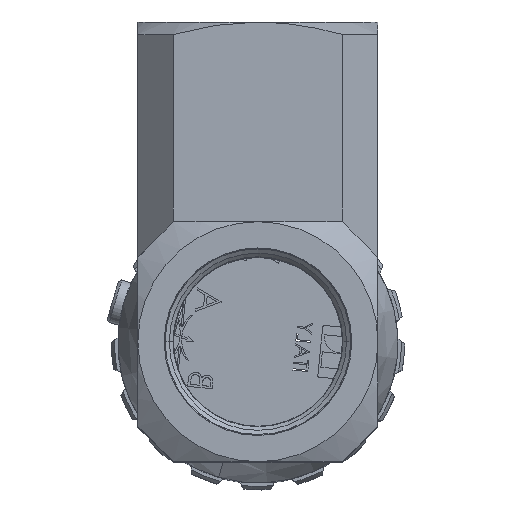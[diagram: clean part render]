
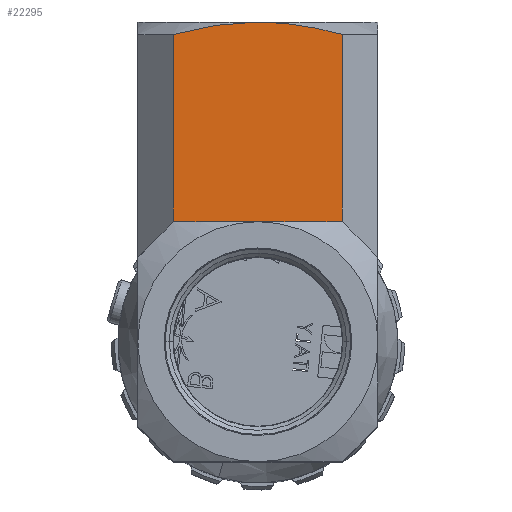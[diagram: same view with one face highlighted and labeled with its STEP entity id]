
A CAD part, top view. The second image highlights one B-rep face of the part: STEP entity #22295.
In plain terms, the highlighted planar face has unit normal (0, 0, 1).
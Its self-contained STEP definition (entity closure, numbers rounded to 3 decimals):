
#98 = EDGE_CURVE ( 'NONE', #4558, #22527, #21492, .T. ) ;
#587 = CARTESIAN_POINT ( 'NONE',  ( 6.403, 35.363, 5. ) ) ;
#1578 = CARTESIAN_POINT ( 'NONE',  ( 9.5, 36., 5. ) ) ;
#1834 = CARTESIAN_POINT ( 'NONE',  ( 9.5, 34.598, 5. ) ) ;
#2128 = VECTOR ( 'NONE', #4019, 1000. ) ;
#2434 = EDGE_LOOP ( 'NONE', ( #3364, #8077, #29382, #3970, #3834 ) ) ;
#3106 = CARTESIAN_POINT ( 'NONE',  ( 9.5, 34.598, 5. ) ) ;
#3364 = ORIENTED_EDGE ( 'NONE', *, *, #29520, .F. ) ;
#3393 = PLANE ( 'NONE',  #10958 ) ;
#3834 = ORIENTED_EDGE ( 'NONE', *, *, #8665, .F. ) ;
#3970 = ORIENTED_EDGE ( 'NONE', *, *, #98, .T. ) ;
#4019 = DIRECTION ( 'NONE',  ( 0., 1., 0. ) ) ;
#4339 = CARTESIAN_POINT ( 'NONE',  ( -13.5, 13.5, 5. ) ) ;
#4558 = VERTEX_POINT ( 'NONE', #8569 ) ;
#5424 = VERTEX_POINT ( 'NONE', #17155 ) ;
#6836 = VECTOR ( 'NONE', #29625, 1000. ) ;
#8075 = CARTESIAN_POINT ( 'NONE',  ( 0., 36., 5. ) ) ;
#8077 = ORIENTED_EDGE ( 'NONE', *, *, #20371, .T. ) ;
#8417 = EDGE_CURVE ( 'NONE', #10214, #4558, #10408, .T. ) ;
#8569 = CARTESIAN_POINT ( 'NONE',  ( 9.5, 13.5, 5. ) ) ;
#8603 = CARTESIAN_POINT ( 'NONE',  ( -9.5, 34.598, 5. ) ) ;
#8665 = EDGE_CURVE ( 'NONE', #5424, #22527, #19766, .T. ) ;
#10214 = VERTEX_POINT ( 'NONE', #25013 ) ;
#10408 = LINE ( 'NONE', #4339, #17136 ) ;
#10958 = AXIS2_PLACEMENT_3D ( 'NONE', #13571, #31165, #16107 ) ;
#13172 = CARTESIAN_POINT ( 'NONE',  ( 1.6, 35.967, 5. ) ) ;
#13571 = CARTESIAN_POINT ( 'NONE',  ( -13.5, 36., 5. ) ) ;
#13573 = LINE ( 'NONE', #27095, #6836 ) ;
#13706 = CARTESIAN_POINT ( 'NONE',  ( -3.189, 35.864, 5. ) ) ;
#15697 = CARTESIAN_POINT ( 'NONE',  ( 4.011, 35.737, 5. ) ) ;
#16107 = DIRECTION ( 'NONE',  ( -1., 0., 0. ) ) ;
#16243 = CARTESIAN_POINT ( 'NONE',  ( 0., 36., 5. ) ) ;
#17136 = VECTOR ( 'NONE', #19513, 1000. ) ;
#17155 = CARTESIAN_POINT ( 'NONE',  ( 0., 36., 5. ) ) ;
#18141 = CARTESIAN_POINT ( 'NONE',  ( -9.5, 34.598, 5. ) ) ;
#18246 = CARTESIAN_POINT ( 'NONE',  ( 7.962, 35.01, 5. ) ) ;
#19513 = DIRECTION ( 'NONE',  ( 1., 0., 0. ) ) ;
#19677 = VERTEX_POINT ( 'NONE', #18141 ) ;
#19766 = B_SPLINE_CURVE_WITH_KNOTS ( 'NONE', 3,
 ( #8075, #23156, #13172, #30767, #15697, #587, #18246, #3106 ),
 .UNSPECIFIED., .F., .F.,
 ( 4, 2, 2, 4 ),
 ( 0.023, 0.026, 0.028, 0.033 ),
 .UNSPECIFIED. ) ;
#20371 = EDGE_CURVE ( 'NONE', #19677, #10214, #13573, .T. ) ;
#21086 = CARTESIAN_POINT ( 'NONE',  ( -7.944, 35.015, 5. ) ) ;
#21492 = LINE ( 'NONE', #1578, #2128 ) ;
#22295 = ADVANCED_FACE ( 'NONE', ( #30769 ), #3393, .F. ) ;
#22527 = VERTEX_POINT ( 'NONE', #1834 ) ;
#23156 = CARTESIAN_POINT ( 'NONE',  ( 0.799, 36., 5. ) ) ;
#25013 = CARTESIAN_POINT ( 'NONE',  ( -9.5, 13.5, 5. ) ) ;
#27095 = CARTESIAN_POINT ( 'NONE',  ( -9.5, 36., 5. ) ) ;
#28765 = CARTESIAN_POINT ( 'NONE',  ( -6.36, 35.371, 5. ) ) ;
#29074 = B_SPLINE_CURVE_WITH_KNOTS ( 'NONE', 3,
 ( #8603, #21086, #28765, #13706, #31305, #16243 ),
 .UNSPECIFIED., .F., .F.,
 ( 4, 2, 4 ),
 ( 0.014, 0.018, 0.023 ),
 .UNSPECIFIED. ) ;
#29382 = ORIENTED_EDGE ( 'NONE', *, *, #8417, .T. ) ;
#29520 = EDGE_CURVE ( 'NONE', #19677, #5424, #29074, .T. ) ;
#29625 = DIRECTION ( 'NONE',  ( 0., -1., 0. ) ) ;
#30767 = CARTESIAN_POINT ( 'NONE',  ( 3.204, 35.836, 5. ) ) ;
#30769 = FACE_OUTER_BOUND ( 'NONE', #2434, .T. ) ;
#31165 = DIRECTION ( 'NONE',  ( 0., 0., -1. ) ) ;
#31305 = CARTESIAN_POINT ( 'NONE',  ( -1.598, 36., 5. ) ) ;
